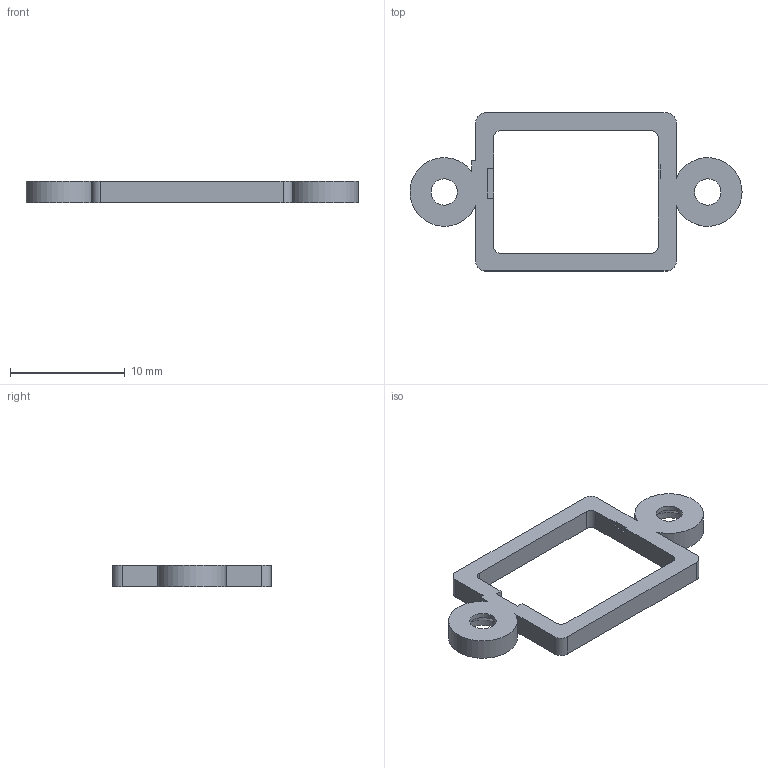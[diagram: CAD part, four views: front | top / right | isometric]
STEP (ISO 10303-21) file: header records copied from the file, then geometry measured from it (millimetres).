
FILE_DESCRIPTION(/* description */ (''),/* implementation_level */ '2;1');
FILE_NAME(/* name */ 'P13.step',/* time_stamp */ '2026-09-14T15:05:30-07:00',/* author */ (''),/* organization */ (''),/* preprocessor_version */ 'ST-DEVELOPER v20.1',/* originating_system */ 'Autodesk Translation Framework v15.8.0.0',/* authorisation */ '');
FILE_SCHEMA (('AUTOMOTIVE_DESIGN { 1 0 10303 214 3 1 1 }'));
Length unit declared in the file: millimetre
Products named in the file (1): 2026-09-14-15-05-30-761
Bounding box: 28.99 x 13.8 x 1.85 mm (x, y, z)
Volume: 233.5 mm3; surface area: 552.8 mm2
Topology: 1 solids, 1 shells, 38 faces, 104 edges, 68 vertices
Faces by surface type: plane 22, cylinder 14, cone 2
Full cylindrical faces by diameter (mm): 2.3 x2, 3.92 x2
Entity records: 1249 total; most frequent: CARTESIAN_POINT 211, DIRECTION 210, ORIENTED_EDGE 208, EDGE_CURVE 104, LINE 76, VECTOR 76, VERTEX_POINT 68, AXIS2_PLACEMENT_3D 67
